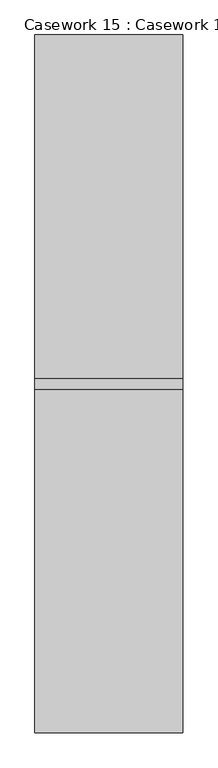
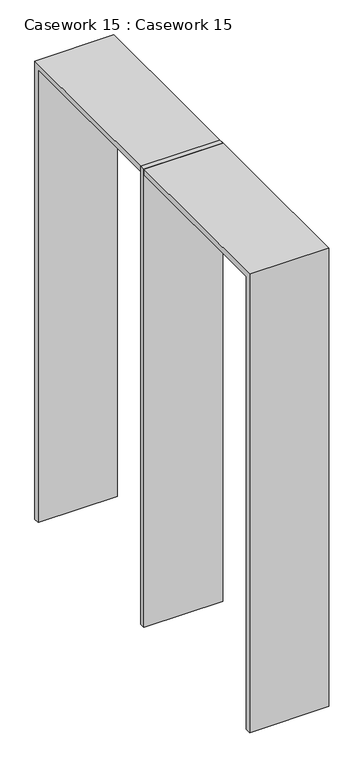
"""IFC4 building model written with IfcOpenShell, lengths in millimetres: furniture geometry, Casework 15 : Casework 15."""

from ifc_helpers import new_model, si_unit, frame, origin, place, context, project, spatial, polyline, outline, extrude, source, transform, mapped, element, save


def casework_15_casework_15_c3bc77f4(model_context):
    return source(origin(), model_context, "Body", "SweptSolid", [
        extrude(outline(polyline([(3721.1, 11760.0947939), (3721.1, 11785.4947939), (4076.7, 11785.4947939), (4076.7, 11760.0947939), (3721.1, 11760.0947939)])), frame((0.0, 0.0, 3251.2), z_axis=(0.0, 0.0, 1.0), x_axis=(1.0, 0.0, 0.0)), (0.0, 0.0, 1.0), 2184.4),
        extrude(outline(polyline([(12610.9947939, 5435.6), (12610.9947939, 3251.2), (12585.5947454, 3251.2), (12585.5947454, 5410.2), (10959.9947946, 5410.2), (10959.9947946, 3251.2), (10934.5947939, 3251.2), (10934.5947939, 5435.6), (12610.9947939, 5435.6)])), frame((3721.1, 0.0, 0.0), z_axis=(1.0, 0.0, 0.0), x_axis=(0.0, 1.0, 0.0)), (0.0, 0.0, 1.0), 355.6),
    ])


if __name__ == "__main__":
    model = new_model("IFC4")
    model_context = context("Model", 3, world=origin())
    ifc_project = project(units=[si_unit("LENGTHUNIT", "METRE", prefix="MILLI")], contexts=[model_context])
    site = spatial("IfcSite", under=ifc_project)
    building = spatial("IfcBuilding", under=site)
    placement = place(None, origin())
    casework_15_casework_15_shape = casework_15_casework_15_c3bc77f4(model_context)
    element("IfcFurniture", 1, ObjectType="Casework 15 : Casework 15", at=placement, inside=building, context=model_context, shape_type="MappedRepresentation", body=[
        mapped(casework_15_casework_15_shape, transform((0.0, 0.0, 0.0), x_axis=(1.0, 0.0, 0.0), y_axis=(0.0, 1.0, 0.0), z_axis=(0.0, 0.0, 1.0))),
    ])
    save(model, "model.ifc")
